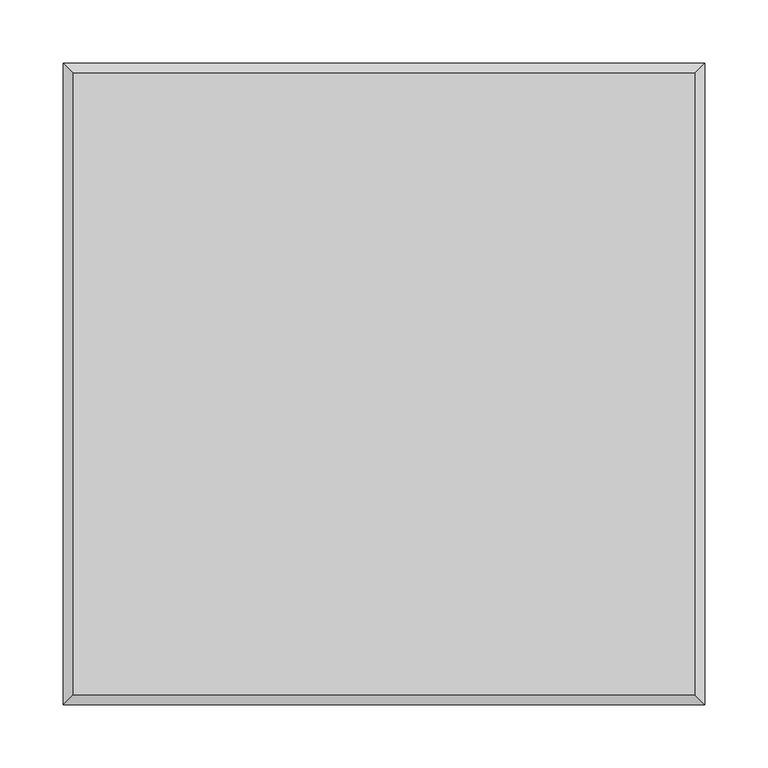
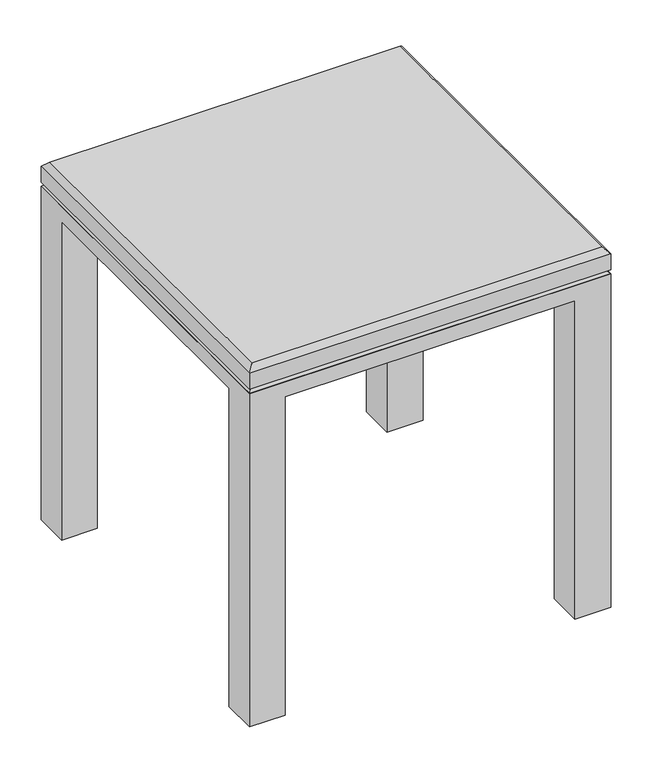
"""IFC4 building model written with IfcOpenShell, lengths in millimetres: furniture geometry, Steelcase Coalesse - Swathmore Plus - Beveled : 20D x 20W x 21H - Glass Top."""

import ifcopenshell
import ifcopenshell.guid

model = None  # the IFC model being written
_history = None  # IfcOwnerHistory: only IFC2X3 demands one
_inside = {}  # id of a spatial element -> (the spatial element, [elements in it])
_under = {}  # id of a project, library or spatial element -> (it, [spatial elements below it])
_declared = {}  # id of a project -> (the project, [libraries it declares])
_typed = {}  # id of a type object -> (the type object, [elements of that type])
_made_of = {}  # id of a material, layer set ... -> (it, [elements and type objects made of it])


def new_model(schema):
    """Start an empty IFC model of exactly this schema.

    Asked for "IFC4X3", IfcOpenShell would pick the latest addendum, in which some entities
    have other attributes; the version numbers below select the first issue.
    IFC2X3 requires an IfcOwnerHistory on every rooted entity: one is made here for all.
    """
    global model, _history
    if schema == "IFC4X3":
        model = ifcopenshell.file(schema_version=(4, 3, 0, 0))
    else:
        model = ifcopenshell.file(schema=schema)
    _inside.clear()
    _under.clear()
    _declared.clear()
    _typed.clear()
    _made_of.clear()
    _history = None
    if model.schema == "IFC2X3":
        org = make("IfcOrganization", Name="unknown")
        user = make(
            "IfcPersonAndOrganization",
            ThePerson=make("IfcPerson", FamilyName="unknown"),
            TheOrganization=org,
        )
        app = make(
            "IfcApplication",
            ApplicationDeveloper=org,
            Version="unknown",
            ApplicationFullName="unknown",
            ApplicationIdentifier="unknown",
        )
        _history = make(
            "IfcOwnerHistory",
            OwningUser=user,
            OwningApplication=app,
            ChangeAction="ADDED",
            CreationDate=0,
        )
    return model


def make(cls, **values):
    """One entity of the class cls with the attributes given. An attribute that is None is left unset."""
    return model.create_entity(
        cls, **{name: value for name, value in values.items() if value is not None}
    )


def rooted(cls, **values):
    """An entity with a GlobalId (a new one), such as an element, a storey or a relation."""
    return make(cls, GlobalId=ifcopenshell.guid.new(), OwnerHistory=_history, **values)


def si_unit(unit_type, name, prefix=None):
    """IfcSIUnit, for example si_unit("LENGTHUNIT", "METRE", prefix="MILLI")."""
    return make("IfcSIUnit", UnitType=unit_type, Prefix=prefix, Name=name)


def assignment(units):
    """IfcUnitAssignment: the units of a project."""
    return None if units is None else make("IfcUnitAssignment", Units=units)


def point(xyz):
    """IfcCartesianPoint."""
    return None if xyz is None else make("IfcCartesianPoint", Coordinates=xyz)


def direction(xyz):
    """IfcDirection."""
    return None if xyz is None else make("IfcDirection", DirectionRatios=xyz)


def frame(location, z_axis=None, x_axis=None):
    """IfcAxis2Placement3D, a coordinate frame: its origin and axes. An axis left out is left unset."""
    return make(
        "IfcAxis2Placement3D",
        Location=point(location),
        Axis=direction(z_axis),
        RefDirection=direction(x_axis),
    )


def origin():
    """The frame at (0, 0, 0) with its axes left unset."""
    return frame((0.0, 0.0, 0.0))


def place(relative_to, where):
    """IfcLocalPlacement: puts the frame where relative to a parent placement (None: the world)."""
    return make(
        "IfcLocalPlacement", PlacementRelTo=relative_to, RelativePlacement=where
    )


def context(
    kind, dimensions, precision=None, world=None, true_north=None, identifier=None
):
    """IfcGeometricRepresentationContext, for example the 3D "Model" context."""
    return make(
        "IfcGeometricRepresentationContext",
        ContextIdentifier=identifier,
        ContextType=kind,
        CoordinateSpaceDimension=dimensions,
        Precision=precision,
        WorldCoordinateSystem=world,
        TrueNorth=true_north,
    )


def project(units=None, contexts=None):
    """IfcProject with its units and contexts."""
    return rooted(
        "IfcProject",
        Name="project",
        RepresentationContexts=contexts,
        UnitsInContext=assignment(units),
    )


def spatial(cls, under=None, at=None, **own):
    """A site, building, storey or space (cls), placed at a placement, below another one or the project."""
    s = rooted(cls, ObjectPlacement=at, **own)
    if under is not None:
        _under.setdefault(under.id(), (under, []))[1].append(s)
    return s


def faces_of(points, faces, orient=None, outer=None):
    """IfcFace entities. A face is a list of loops; a loop is a list of indices into points, from 0.

    orient and outer hold one flag for each loop. By default every Orientation is true, the
    first loop of a face is its IfcFaceOuterBound and the others are IfcFaceBound.
    """
    made = []
    for i, loops in enumerate(faces):
        bounds = []
        for j, loop in enumerate(loops):
            is_outer = j == 0 if outer is None else outer[i][j]
            bounds.append(
                make(
                    "IfcFaceOuterBound" if is_outer else "IfcFaceBound",
                    Bound=make("IfcPolyLoop", Polygon=[points[k] for k in loop]),
                    Orientation=True if orient is None else orient[i][j],
                )
            )
        made.append(make("IfcFace", Bounds=bounds))
    return made


def faceted_brep(points, faces, orient=None, outer=None, voids=None):
    """IfcFacetedBrep: a solid bounded by flat faces; with voids (closed shells), ...WithVoids."""
    shared = [point(p) for p in points]
    hull = make("IfcClosedShell", CfsFaces=faces_of(shared, faces, orient, outer))
    if voids is None:
        return make("IfcFacetedBrep", Outer=hull)
    return make(
        "IfcFacetedBrepWithVoids",
        Outer=hull,
        Voids=[
            make(cls, CfsFaces=faces_of(shared, fs, o, b)) for cls, fs, o, b in voids
        ],
    )


def shape(context_of_items, identifier, shape_type, items):
    """IfcShapeRepresentation: the items that make up one representation, for example the "Body"."""
    return make(
        "IfcShapeRepresentation",
        ContextOfItems=context_of_items,
        RepresentationIdentifier=identifier,
        RepresentationType=shape_type,
        Items=items,
    )


def source(mapping_origin, context_of_items, identifier, shape_type, items):
    """IfcRepresentationMap: a shape defined once, which mapped items show again and again."""
    return make(
        "IfcRepresentationMap",
        MappingOrigin=mapping_origin,
        MappedRepresentation=shape(context_of_items, identifier, shape_type, items),
    )


def transform(
    local_origin,
    x_axis=None,
    y_axis=None,
    z_axis=None,
    scale=None,
    scale2=None,
    scale3=None,
    uniform=True,
):
    """IfcCartesianTransformationOperator3D, or its non-uniform kind. x_axis, y_axis, z_axis: its Axis1, 2, 3."""
    if uniform:
        return make(
            "IfcCartesianTransformationOperator3D",
            Axis1=direction(x_axis),
            Axis2=direction(y_axis),
            LocalOrigin=point(local_origin),
            Scale=scale,
            Axis3=direction(z_axis),
        )
    return make(
        "IfcCartesianTransformationOperator3DnonUniform",
        Axis1=direction(x_axis),
        Axis2=direction(y_axis),
        LocalOrigin=point(local_origin),
        Scale=scale,
        Axis3=direction(z_axis),
        Scale2=scale2,
        Scale3=scale3,
    )


def mapped(mapping_source, mapping_target):
    """IfcMappedItem: shows the shape of a source again, moved by a transform."""
    return make(
        "IfcMappedItem", MappingSource=mapping_source, MappingTarget=mapping_target
    )


def made_of(thing, what):
    """Note that an element or type object is made of a material, layer set ...; save() writes the relation."""
    if what is not None:
        _made_of.setdefault(what.id(), (what, []))[1].append(thing)
    return thing


def element(
    cls,
    number,
    at=None,
    inside=None,
    cuts=None,
    type_object=None,
    material=None,
    context=None,
    identifier="Body",
    shape_type=None,
    held_by="IfcProductDefinitionShape",
    body=None,
    shapes=None,
    **own,
):
    """One element of the class cls, such as IfcWall. Its Tag is "e" and its number.

    at: its placement. inside: the storey or other place that contains it. cuts: it is an
    opening in that element (IfcRelVoidsElement). A single representation is given by context,
    identifier, shape_type and body (its items); several are given by shapes. held_by: the class
    of the entity that holds the representations. save() writes the other relations.
    """
    e = rooted(cls, Tag="e%d" % number, ObjectPlacement=at, **own)
    if body is not None:
        shapes = [shape(context, identifier, shape_type, body)]
    if shapes is not None:
        e.Representation = make(held_by, Representations=shapes)
    if inside is not None:
        _inside.setdefault(inside.id(), (inside, []))[1].append(e)
    if cuts is not None:
        rooted(
            "IfcRelVoidsElement", RelatingBuildingElement=cuts, RelatedOpeningElement=e
        )
    if type_object is not None:
        _typed.setdefault(type_object.id(), (type_object, []))[1].append(e)
    return made_of(e, material)


def aggregate(whole, parts):
    """IfcRelAggregates: a whole, such as a stair, and the parts it consists of."""
    return rooted("IfcRelAggregates", RelatingObject=whole, RelatedObjects=parts)


def save(model, path):
    """Write the relations noted so far, then the file.

    IfcRelAggregates (storeys below a building ...), IfcRelContainedInSpatialStructure (elements
    in a storey), IfcRelDefinesByType, IfcRelAssociatesMaterial and IfcRelDeclares: one each for
    every whole, place, type object, material and project.
    """
    for whole, parts in _under.values():
        aggregate(whole, parts)
    for where, things in _inside.values():
        rooted(
            "IfcRelContainedInSpatialStructure",
            RelatedElements=things,
            RelatingStructure=where,
        )
    for kind, things in _typed.values():
        rooted("IfcRelDefinesByType", RelatedObjects=things, RelatingType=kind)
    for what, things in _made_of.values():
        rooted("IfcRelAssociatesMaterial", RelatedObjects=things, RelatingMaterial=what)
    for by, libraries in _declared.values():
        rooted("IfcRelDeclares", RelatingContext=by, RelatedDefinitions=libraries)
    model.write(path)


def furniture_31205a44(model_context):
    return source(origin(), model_context, "Body", "Brep", [
        faceted_brep([(508.0, 0.0, 495.3), (0.0, 0.0, 495.3), (0.0, -508.0, 495.3), (508.0, -508.0, 495.3), (508.0, -50.1297163, 473.0750121), (508.0, -458.1013016, 473.0750121), (457.8734085, -458.1013016, 473.0750121), (457.8734085, -457.8702837, 473.0750121), (501.6498062, -457.8702837, 473.0750121), (501.6498062, -50.1297163, 473.0750121), (457.8734085, -508.0, 473.0750121), (50.1812393, -508.0, 473.0750121), (50.1812393, -458.1013016, 473.0750121), (0.0, -458.1013016, 473.0750121), (0.0, -50.1297163, 473.0750121), (6.3501938, -50.1297163, 473.0750121), (6.3501938, -457.8702837, 473.0750121), (50.8001938, -457.8702837, 473.0750121), (50.8001938, -501.6496318, 473.0750121), (457.8734085, -501.6496318, 473.0750121), (50.1812393, 0.0, 473.0750121), (457.8734085, 0.0, 473.0750121), (457.8734085, -6.3503682, 473.0750121), (50.8001938, -6.3503682, 473.0750121), (50.8001938, -50.1297163, 473.0750121), (50.1812393, -50.1297163, 473.0750121), (508.0, 0.0, 0.0), (457.8734085, 0.0, 0.0), (50.1812393, 0.0, 0.0), (0.0, 0.0, 0.0), (0.0, -50.1297163, 0.0), (0.0, -458.1013016, 0.0), (0.0, -508.0, 0.0), (50.1812393, -508.0, 0.0), (457.8734085, -508.0, 0.0), (508.0, -508.0, 0.0), (508.0, -458.1013016, 0.0), (508.0, -50.1297163, 0.0), (50.1812393, -50.1297163, 0.0), (50.1812393, -458.1013016, 0.0), (457.8734085, -50.1297163, 0.0), (457.8734085, -458.1013016, 0.0), (50.1812393, -458.1013016, 450.8499879), (457.8734085, -50.1297163, 450.8499879), (457.8734085, -28.575, 450.8499879), (479.425, -50.1297163, 450.8499879), (457.8734085, -458.1013016, 450.8499879), (457.8734085, -479.425, 450.8499879), (50.7998062, -50.8000242, 450.8499879), (50.7998062, -28.575, 450.8499879), (479.425, -458.1013016, 450.8499879), (50.1812393, -479.425, 450.8499879), (50.1812393, -458.1013016, 450.8499879), (28.5708422, -458.1013016, 450.8499879), (28.5708422, -50.8000242, 450.8499879)], [[[0, 1, 2, 3]], [[4, 5, 6, 7, 8, 9]], [[10, 11, 12, 13, 14, 15, 16, 17, 18, 19]], [[20, 21, 22, 23, 24, 25]], [[1, 0, 26, 27, 21, 20, 28, 29]], [[2, 1, 29, 30, 14, 13, 31, 32]], [[3, 2, 32, 33, 11, 10, 34, 35]], [[0, 3, 35, 36, 5, 4, 37, 26]], [[28, 38, 30, 29]], [[33, 32, 31, 39]], [[26, 37, 40, 27]], [[36, 35, 34, 41]], [[30, 38, 25, 15, 14]], [[38, 28, 20, 25]], [[33, 39, 42, 12, 11]], [[39, 31, 13, 12, 42]], [[27, 40, 43, 44, 22, 21]], [[40, 37, 4, 9, 45, 43]], [[36, 41, 46, 6, 5]], [[41, 34, 10, 19, 47, 46]], [[48, 49, 44, 43, 45, 50, 46, 47, 51, 52, 53, 54]], [[48, 54, 15, 25, 24]], [[54, 53, 16, 15]], [[53, 52, 17, 16]], [[52, 51, 18, 17]], [[51, 47, 19, 18]], [[46, 7, 6]], [[46, 50, 8, 7]], [[50, 45, 9, 8]], [[44, 49, 23, 22]], [[49, 48, 24, 23]]]),
        faceted_brep([(508.0, -508.0, 525.4625121), (508.0, -508.0, 501.6500121), (508.0, 0.0, 501.6500121), (508.0, 0.0, 525.4625121), (0.0, 0.0, 525.4625121), (0.0, 0.0, 501.6500121), (0.0, -508.0, 501.6500121), (0.0, -508.0, 525.4625121), (500.0626938, -7.9375242, 533.4), (7.9373062, -7.9375242, 533.4), (7.9373062, -500.0625484, 533.4), (500.0626938, -500.0625484, 533.4)], [[[0, 1, 2, 3]], [[4, 5, 6, 7]], [[1, 0, 7, 6]], [[2, 1, 6, 5]], [[3, 2, 5, 4]], [[8, 9, 10, 11]], [[8, 11, 0, 3]], [[11, 10, 7, 0]], [[10, 9, 4, 7]], [[9, 8, 3, 4]]]),
        faceted_brep([(508.0, 0.0, 495.3), (508.0, -508.0, 495.3), (0.0, -508.0, 495.3), (0.0, 0.0, 495.3), (501.6498062, -6.3499758, 501.6500121), (6.3501938, -6.3499758, 501.6500121), (6.3501938, -501.6496318, 501.6500121), (501.6498062, -501.6496318, 501.6500121)], [[[0, 1, 2, 3]], [[4, 5, 6, 7]], [[4, 7, 1, 0]], [[7, 6, 2, 1]], [[6, 5, 3, 2]], [[5, 4, 0, 3]]]),
    ])


if __name__ == "__main__":
    model = new_model("IFC4")
    model_context = context("Model", 3, world=origin())
    ifc_project = project(units=[si_unit("LENGTHUNIT", "METRE", prefix="MILLI")], contexts=[model_context])
    site = spatial("IfcSite", under=ifc_project)
    building = spatial("IfcBuilding", under=site)
    placement = place(None, origin())
    furniture_shape = furniture_31205a44(model_context)
    element("IfcFurniture", 1, ObjectType="Steelcase Coalesse - Swathmore Plus - Beveled : 20D x 20W x 21H - Glass Top", at=placement, inside=building, context=model_context, shape_type="MappedRepresentation", body=[
        mapped(furniture_shape, transform((0.0, 0.0, 0.0), x_axis=(1.0, 0.0, 0.0), y_axis=(0.0, 1.0, 0.0), z_axis=(0.0, 0.0, 1.0))),
    ])
    save(model, "model.ifc")
